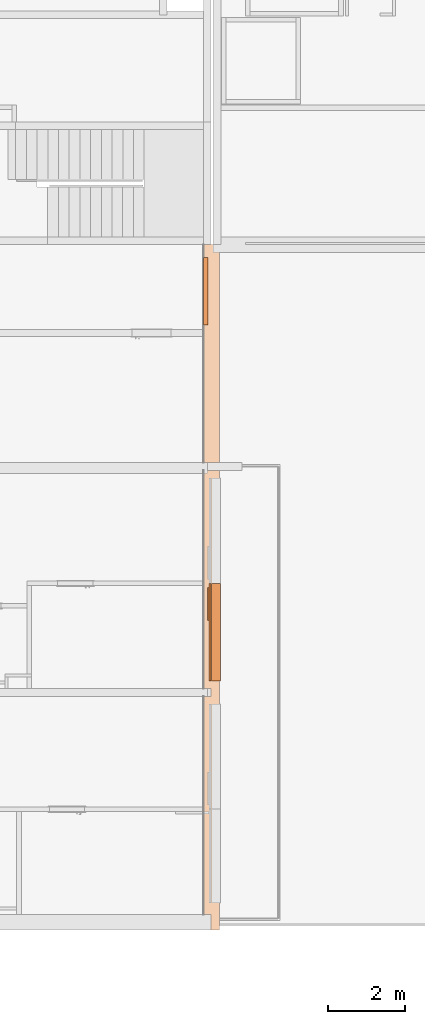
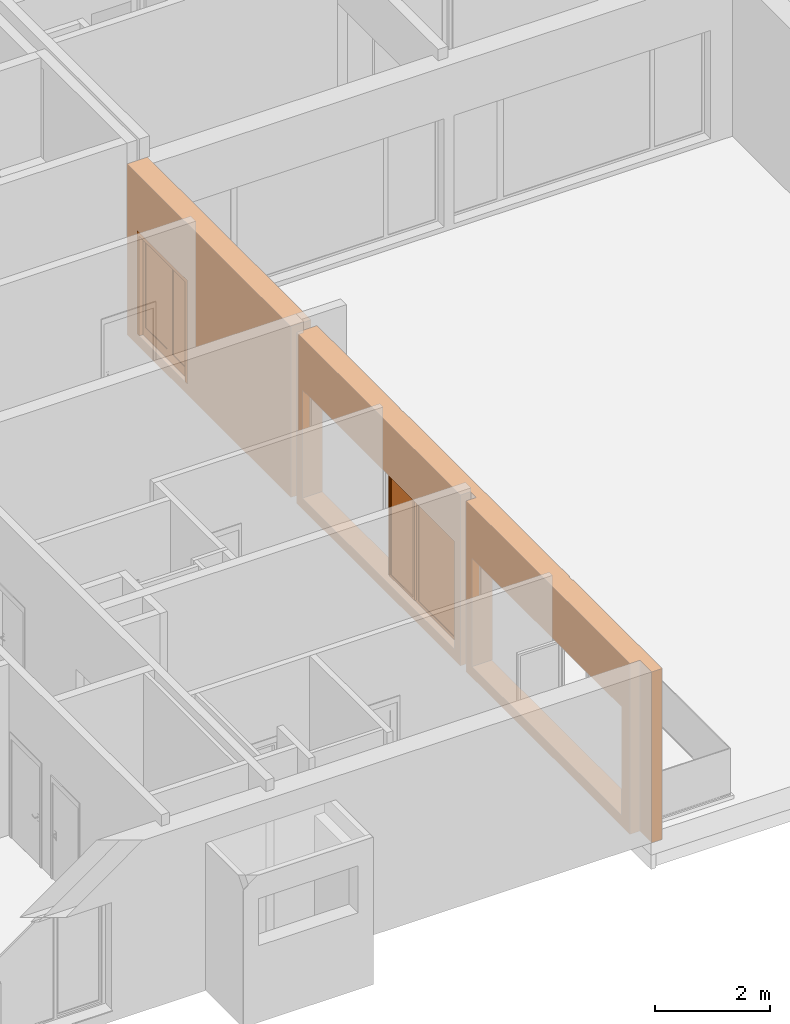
# One storey, part 30 of 46: 2 proxies, 5 openings, plus 1 element that does not belong to this part.
"""IFC2X3 building model written with IfcOpenShell, lengths in millimetres."""

import ifcopenshell
import ifcopenshell.guid

model = None  # the IFC model being written
_history = None  # IfcOwnerHistory: only IFC2X3 demands one
_inside = {}  # id of a spatial element -> (the spatial element, [elements in it])
_under = {}  # id of a project, library or spatial element -> (it, [spatial elements below it])
_declared = {}  # id of a project -> (the project, [libraries it declares])
_typed = {}  # id of a type object -> (the type object, [elements of that type])
_made_of = {}  # id of a material, layer set ... -> (it, [elements and type objects made of it])


def new_model(schema):
    """Start an empty IFC model of exactly this schema.

    Asked for "IFC4X3", IfcOpenShell would pick the latest addendum, in which some entities
    have other attributes; the version numbers below select the first issue.
    IFC2X3 requires an IfcOwnerHistory on every rooted entity: one is made here for all.
    """
    global model, _history
    if schema == "IFC4X3":
        model = ifcopenshell.file(schema_version=(4, 3, 0, 0))
    else:
        model = ifcopenshell.file(schema=schema)
    _inside.clear()
    _under.clear()
    _declared.clear()
    _typed.clear()
    _made_of.clear()
    _history = None
    if model.schema == "IFC2X3":
        org = make("IfcOrganization", Name="unknown")
        user = make(
            "IfcPersonAndOrganization",
            ThePerson=make("IfcPerson", FamilyName="unknown"),
            TheOrganization=org,
        )
        app = make(
            "IfcApplication",
            ApplicationDeveloper=org,
            Version="unknown",
            ApplicationFullName="unknown",
            ApplicationIdentifier="unknown",
        )
        _history = make(
            "IfcOwnerHistory",
            OwningUser=user,
            OwningApplication=app,
            ChangeAction="ADDED",
            CreationDate=0,
        )
    return model


def make(cls, **values):
    """One entity of the class cls with the attributes given. An attribute that is None is left unset."""
    return model.create_entity(
        cls, **{name: value for name, value in values.items() if value is not None}
    )


def entity(cls, *values):
    """Any entity or typed value of the class cls, its attributes in the order of the schema. None: left unset."""
    e = model.create_entity(cls)
    for i, value in enumerate(values):
        if value is not None:
            e[i] = value
    return e


def rooted(cls, **values):
    """An entity with a GlobalId (a new one), such as an element, a storey or a relation."""
    return make(cls, GlobalId=ifcopenshell.guid.new(), OwnerHistory=_history, **values)


def si_unit(unit_type, name, prefix=None):
    """IfcSIUnit, for example si_unit("LENGTHUNIT", "METRE", prefix="MILLI")."""
    return make("IfcSIUnit", UnitType=unit_type, Prefix=prefix, Name=name)


def converted_unit(unit_type, name, factor, base, dimensions=None, offset=None):
    """IfcConversionBasedUnit, such as the inch: factor (a typed value) times the base unit."""
    return make(
        "IfcConversionBasedUnit"
        if offset is None
        else "IfcConversionBasedUnitWithOffset",
        ConversionOffset=offset,
        Dimensions=None
        if dimensions is None
        else entity("IfcDimensionalExponents", *dimensions),
        UnitType=unit_type,
        Name=name,
        ConversionFactor=make(
            "IfcMeasureWithUnit", ValueComponent=factor, UnitComponent=base
        ),
    )


def derived_unit(unit_type, elements):
    """IfcDerivedUnit: a product of units, each with its exponent."""
    return make(
        "IfcDerivedUnit",
        Elements=[
            make("IfcDerivedUnitElement", Unit=unit, Exponent=power)
            for unit, power in elements
        ],
        UnitType=unit_type,
    )


def money_unit(currency):
    """IfcMonetaryUnit."""
    return make("IfcMonetaryUnit", Currency=currency)


def assignment(units):
    """IfcUnitAssignment: the units of a project."""
    return None if units is None else make("IfcUnitAssignment", Units=units)


def point(xyz):
    """IfcCartesianPoint."""
    return None if xyz is None else make("IfcCartesianPoint", Coordinates=xyz)


def direction(xyz):
    """IfcDirection."""
    return None if xyz is None else make("IfcDirection", DirectionRatios=xyz)


def frame(location, z_axis=None, x_axis=None):
    """IfcAxis2Placement3D, a coordinate frame: its origin and axes. An axis left out is left unset."""
    return make(
        "IfcAxis2Placement3D",
        Location=point(location),
        Axis=direction(z_axis),
        RefDirection=direction(x_axis),
    )


def frame_2d(location, x_axis=None):
    """IfcAxis2Placement2D, a coordinate frame in the plane: its origin and x axis."""
    return make(
        "IfcAxis2Placement2D", Location=point(location), RefDirection=direction(x_axis)
    )


def origin_with_axes():
    """The frame at (0, 0, 0) with the z axis (0, 0, 1) and the x axis (1, 0, 0) written out."""
    return frame((0.0, 0.0, 0.0), z_axis=(0.0, 0.0, 1.0), x_axis=(1.0, 0.0, 0.0))


def origin_2d_with_axis():
    """The frame at (0, 0) in the plane with the x axis (1, 0) written out."""
    return frame_2d((0.0, 0.0), x_axis=(1.0, 0.0))


def place(relative_to, where):
    """IfcLocalPlacement: puts the frame where relative to a parent placement (None: the world)."""
    return make(
        "IfcLocalPlacement", PlacementRelTo=relative_to, RelativePlacement=where
    )


def context(
    kind, dimensions, precision=None, world=None, true_north=None, identifier=None
):
    """IfcGeometricRepresentationContext, for example the 3D "Model" context."""
    return make(
        "IfcGeometricRepresentationContext",
        ContextIdentifier=identifier,
        ContextType=kind,
        CoordinateSpaceDimension=dimensions,
        Precision=precision,
        WorldCoordinateSystem=world,
        TrueNorth=true_north,
    )


def subcontext(parent, identifier, kind, view, scale=None):
    """IfcGeometricRepresentationSubContext, for example "Body" below "Model"."""
    return make(
        "IfcGeometricRepresentationSubContext",
        ContextIdentifier=identifier,
        ContextType=kind,
        ParentContext=parent,
        TargetScale=scale,
        TargetView=view,
    )


def project(units=None, contexts=None):
    """IfcProject with its units and contexts."""
    return rooted(
        "IfcProject",
        Name="project",
        RepresentationContexts=contexts,
        UnitsInContext=assignment(units),
    )


def spatial(cls, under=None, at=None, **own):
    """A site, building, storey or space (cls), placed at a placement, below another one or the project."""
    s = rooted(cls, ObjectPlacement=at, **own)
    if under is not None:
        _under.setdefault(under.id(), (under, []))[1].append(s)
    return s


def profile(cls, at=None, kind="AREA", **sizes):
    """A parametric profile (cls). Its sizes go by their IFC names, for example OverallWidth=200.0."""
    return make(cls, ProfileType=kind, Position=at, **sizes)


def rectangle(**sizes):
    """IfcRectangleProfileDef."""
    return profile("IfcRectangleProfileDef", **sizes)


def extrude(swept, where, along, depth):
    """IfcExtrudedAreaSolid: the profile swept, set in the frame where, extruded along a direction by depth."""
    return make(
        "IfcExtrudedAreaSolid",
        SweptArea=swept,
        Position=where,
        ExtrudedDirection=direction(along),
        Depth=depth,
    )


def faces_of(points, faces, orient=None, outer=None):
    """IfcFace entities. A face is a list of loops; a loop is a list of indices into points, from 0.

    orient and outer hold one flag for each loop. By default every Orientation is true, the
    first loop of a face is its IfcFaceOuterBound and the others are IfcFaceBound.
    """
    made = []
    for i, loops in enumerate(faces):
        bounds = []
        for j, loop in enumerate(loops):
            is_outer = j == 0 if outer is None else outer[i][j]
            bounds.append(
                make(
                    "IfcFaceOuterBound" if is_outer else "IfcFaceBound",
                    Bound=make("IfcPolyLoop", Polygon=[points[k] for k in loop]),
                    Orientation=True if orient is None else orient[i][j],
                )
            )
        made.append(make("IfcFace", Bounds=bounds))
    return made


def open_shell(faces, orient=None, outer=None):
    """The faces of one IfcOpenShell. surface_model builds it on its shared points."""
    return ("IfcOpenShell", faces, orient, outer)


def faceted_brep(points, faces, orient=None, outer=None, voids=None):
    """IfcFacetedBrep: a solid bounded by flat faces; with voids (closed shells), ...WithVoids."""
    shared = [point(p) for p in points]
    hull = make("IfcClosedShell", CfsFaces=faces_of(shared, faces, orient, outer))
    if voids is None:
        return make("IfcFacetedBrep", Outer=hull)
    return make(
        "IfcFacetedBrepWithVoids",
        Outer=hull,
        Voids=[
            make(cls, CfsFaces=faces_of(shared, fs, o, b)) for cls, fs, o, b in voids
        ],
    )


def surface_model(cls, points, shells):
    """IfcFaceBasedSurfaceModel or IfcShellBasedSurfaceModel (cls): surfaces that need not close."""
    shared = [point(p) for p in points]
    made = [make(c, CfsFaces=faces_of(shared, fs, o, b)) for c, fs, o, b in shells]
    if cls == "IfcFaceBasedSurfaceModel":
        return make(cls, FbsmFaces=made)
    return make(cls, SbsmBoundary=made)


def shape(context_of_items, identifier, shape_type, items):
    """IfcShapeRepresentation: the items that make up one representation, for example the "Body"."""
    return make(
        "IfcShapeRepresentation",
        ContextOfItems=context_of_items,
        RepresentationIdentifier=identifier,
        RepresentationType=shape_type,
        Items=items,
    )


def material(Name=None, Category=None):
    """IfcMaterial."""
    return make("IfcMaterial", Name=Name, Category=Category)


def material_list(materials):
    """IfcMaterialList."""
    return make("IfcMaterialList", Materials=materials)


def made_of(thing, what):
    """Note that an element or type object is made of a material, layer set ...; save() writes the relation."""
    if what is not None:
        _made_of.setdefault(what.id(), (what, []))[1].append(thing)
    return thing


def type_object(cls, material=None, **own):
    """A type object (cls), such as IfcWallType, which elements share."""
    return made_of(rooted(cls, **own), material)


def element(
    cls,
    number,
    at=None,
    inside=None,
    cuts=None,
    type_object=None,
    material=None,
    context=None,
    identifier="Body",
    shape_type=None,
    held_by="IfcProductDefinitionShape",
    body=None,
    shapes=None,
    **own,
):
    """One element of the class cls, such as IfcWall. Its Tag is "e" and its number.

    at: its placement. inside: the storey or other place that contains it. cuts: it is an
    opening in that element (IfcRelVoidsElement). A single representation is given by context,
    identifier, shape_type and body (its items); several are given by shapes. held_by: the class
    of the entity that holds the representations. save() writes the other relations.
    """
    e = rooted(cls, Tag="e%d" % number, ObjectPlacement=at, **own)
    if body is not None:
        shapes = [shape(context, identifier, shape_type, body)]
    if shapes is not None:
        e.Representation = make(held_by, Representations=shapes)
    if inside is not None:
        _inside.setdefault(inside.id(), (inside, []))[1].append(e)
    if cuts is not None:
        rooted(
            "IfcRelVoidsElement", RelatingBuildingElement=cuts, RelatedOpeningElement=e
        )
    if type_object is not None:
        _typed.setdefault(type_object.id(), (type_object, []))[1].append(e)
    return made_of(e, material)


def fill(opening, filler):
    """IfcRelFillsElement: the door or window that sits in an opening."""
    return rooted(
        "IfcRelFillsElement",
        RelatingOpeningElement=opening,
        RelatedBuildingElement=filler,
    )


def aggregate(whole, parts):
    """IfcRelAggregates: a whole, such as a stair, and the parts it consists of."""
    return rooted("IfcRelAggregates", RelatingObject=whole, RelatedObjects=parts)


def save(model, path):
    """Write the relations noted so far, then the file.

    IfcRelAggregates (storeys below a building ...), IfcRelContainedInSpatialStructure (elements
    in a storey), IfcRelDefinesByType, IfcRelAssociatesMaterial and IfcRelDeclares: one each for
    every whole, place, type object, material and project.
    """
    for whole, parts in _under.values():
        aggregate(whole, parts)
    for where, things in _inside.values():
        rooted(
            "IfcRelContainedInSpatialStructure",
            RelatedElements=things,
            RelatingStructure=where,
        )
    for kind, things in _typed.values():
        rooted("IfcRelDefinesByType", RelatedObjects=things, RelatingType=kind)
    for what, things in _made_of.values():
        rooted("IfcRelAssociatesMaterial", RelatedObjects=things, RelatingMaterial=what)
    for by, libraries in _declared.values():
        rooted("IfcRelDeclares", RelatingContext=by, RelatedDefinitions=libraries)
    model.write(path)


model = new_model("IFC2X3")

# Units and contexts
model_context = context("Model", 3, precision=0.01, world=origin_with_axes(), true_north=direction((0.34421633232, 0.938890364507)))
body_context = subcontext(model_context, "Body", "Model", "MODEL_VIEW")
ifc_project = project(units=[si_unit("LENGTHUNIT", "METRE", prefix="MILLI"), si_unit("AREAUNIT", "SQUARE_METRE"), si_unit("VOLUMEUNIT", "CUBIC_METRE"), converted_unit("PLANEANGLEUNIT", "DEGREE", entity("IfcPlaneAngleMeasure", 0.0174532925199), si_unit("PLANEANGLEUNIT", "RADIAN"), dimensions=[0, 0, 0, 0, 0, 0, 0]), si_unit("SOLIDANGLEUNIT", "STERADIAN"), money_unit("USD"), converted_unit("TIMEUNIT", "Year", entity("IfcTimeMeasure", 31556926.0), si_unit("TIMEUNIT", "SECOND"), dimensions=[0, 0, 1, 0, 0, 0, 0]), si_unit("MASSUNIT", "GRAM", prefix="KILO"), si_unit("THERMODYNAMICTEMPERATUREUNIT", "DEGREE_CELSIUS"), si_unit("LUMINOUSINTENSITYUNIT", "LUMEN"), si_unit("ENERGYUNIT", "JOULE", prefix="MEGA"), derived_unit("THERMALCONDUCTANCEUNIT", [(si_unit("POWERUNIT", "WATT"), 1), (si_unit("LENGTHUNIT", "METRE"), -1), (si_unit("THERMODYNAMICTEMPERATUREUNIT", "KELVIN"), -1)]), derived_unit("SPECIFICHEATCAPACITYUNIT", [(si_unit("ENERGYUNIT", "JOULE"), 1), (si_unit("MASSUNIT", "GRAM", prefix="KILO"), -1), (si_unit("THERMODYNAMICTEMPERATUREUNIT", "KELVIN"), -1)]), derived_unit("MASSDENSITYUNIT", [(si_unit("MASSUNIT", "GRAM", prefix="KILO"), 1), (si_unit("VOLUMEUNIT", "CUBIC_METRE"), -1)])], contexts=[model_context])

# Site, building, storey
site_placement = place(None, origin_with_axes())
site = spatial("IfcSite", under=ifc_project, at=site_placement, Name="USTRONIE MORSKIE", CompositionType="ELEMENT")
building_placement = place(site_placement, origin_with_axes())
building = spatial("IfcBuilding", under=site, at=building_placement, Name="Budynek", CompositionType="ELEMENT")
storey_placement = place(building_placement, origin_with_axes())
storey = spatial("IfcBuildingStorey", under=building, at=storey_placement, Name="PARTER", CompositionType="ELEMENT", Elevation=0.0)

# Proxies, openings
ifc_material_1 = material(Name="Tynk zewnętrzny")
ifc_material_2 = material(Name="Wełna ELEW wysoki priorytet")
ifc_material_3 = material(Name="Beton konstrukcyjny B25")
ifc_material_list = material_list([ifc_material_1, ifc_material_2, ifc_material_3])
building_element_proxy_type_1 = type_object("IfcBuildingElementProxyType", Name="20+20 HP 410", PredefinedType="NOTDEFINED")
proxy_1_placement = place(storey_placement, frame((367067.920919, 726801.198942, -230.0), z_axis=(0.0, 0.0, 1.0), x_axis=(0.0, -1.0, 0.0)))
proxy_1 = element("IfcBuildingElementProxy", 1, at=proxy_1_placement, inside=storey, type_object=building_element_proxy_type_1, material=ifc_material_list, Name="SZ-01", context=body_context, shape_type="Brep", body=[
    faceted_brep([(5699.99990542, 310.0, 130.0), (-9.4584947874e-05, 310.0, 130.0), (0.0, 310.0, 3630.0), (5699.99990542, 310.0, 3630.0), (-9.4584947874e-05, 300.0, 130.0), (5699.99990542, 300.0, 130.0), (0.0, 300.0, 3630.0), (5699.99990542, 300.0, 3630.0)], [[[0, 1, 2, 3]], [[4, 1, 0, 5]], [[1, 4, 6, 2]], [[7, 3, 2, 6]], [[5, 0, 3, 7]], [[4, 5, 7, 6]]]),
    faceted_brep([(8789.98055504, 310.0, 130.0), (5899.99990542, 310.0, 130.0), (5899.99990542, 310.0, 150.0), (8789.98055504, 310.0, 150.0), (5899.99990542, 300.0, 130.0), (8789.98055504, 300.0, 130.0), (5899.99990542, 300.0, 150.0), (8789.98055504, 300.0, 150.0)], [[[0, 1, 2, 3]], [[4, 1, 0, 5]], [[1, 4, 6, 2]], [[3, 2, 6, 7]], [[5, 0, 3, 7]], [[4, 5, 7, 6]]]),
    faceted_brep([(14689.980539, 310.0, 130.0), (8909.98055504, 310.0, 130.0), (8909.98055504, 310.0, 150.0), (14689.980539, 310.0, 150.0), (8909.98055504, 300.0, 130.0), (14689.980539, 300.0, 130.0), (8909.98055504, 300.0, 150.0), (14689.980539, 300.0, 150.0)], [[[0, 1, 2, 3]], [[4, 1, 0, 5]], [[1, 4, 6, 2]], [[3, 2, 6, 7]], [[5, 0, 3, 7]], [[4, 5, 7, 6]]]),
    faceted_brep([(17799.9999054, 310.0, 70.0), (17799.9999054, 310.0, 130.0), (14809.980539, 310.0, 130.0), (14809.980539, 310.0, 150.0), (17649.9999054, 310.0, 150.0), (17649.9999054, 310.0, 230.0), (14809.980539, 310.0, 230.0), (14809.980539, 310.0, 3630.0), (17909.9999054, 310.0, 3630.0), (17909.9999054, 310.0, 0.0), (17799.9999054, 310.0, 0.0), (17799.9999054, 310.0, 5.0), (17799.9999054, 300.0, 70.0), (17799.9999054, 300.0, 130.0), (14809.980539, 300.0, 130.0), (14809.980539, 300.0, 150.0), (17649.9999054, 300.0, 150.0), (17649.9999054, 300.0, 230.0), (14809.980539, 300.0, 230.0), (14809.980539, 300.0, 3630.0), (17909.9999054, 300.0, 3630.0), (17909.9999054, 300.0, 0.0), (17799.9999054, 300.0, 0.0), (17799.9999054, 300.0, 5.0)], [[[0, 1, 2, 3, 4, 5, 6, 7, 8, 9, 10, 11]], [[1, 0, 12, 13]], [[14, 2, 1, 13]], [[2, 14, 15, 3]], [[4, 3, 15, 16]], [[5, 4, 16, 17]], [[18, 6, 5, 17]], [[6, 18, 19, 7]], [[20, 8, 7, 19]], [[8, 20, 21, 9]], [[22, 10, 9, 21]], [[23, 11, 10, 22]], [[12, 0, 11, 23]], [[13, 12, 23, 22, 21, 20, 19, 18, 17, 16, 15, 14]]]),
    faceted_brep([(8789.98055504, 310.0, 230.0), (5899.99990542, 310.0, 230.0), (5899.99990542, 310.0, 3630.0), (8789.98055504, 310.0, 3630.0), (5899.99990542, 300.0, 230.0), (8789.98055504, 300.0, 230.0), (5899.99990542, 300.0, 3630.0), (8789.98055504, 300.0, 3630.0)], [[[0, 1, 2, 3]], [[4, 1, 0, 5]], [[1, 4, 6, 2]], [[7, 3, 2, 6]], [[5, 0, 3, 7]], [[4, 5, 7, 6]]]),
    faceted_brep([(14689.980539, 310.0, 230.0), (8909.98055504, 310.0, 230.0), (8909.98055504, 310.0, 3630.0), (14689.980539, 310.0, 3630.0), (8909.98055504, 300.0, 230.0), (14689.980539, 300.0, 230.0), (8909.98055504, 300.0, 3630.0), (14689.980539, 300.0, 3630.0)], [[[0, 1, 2, 3]], [[4, 1, 0, 5]], [[1, 4, 6, 2]], [[7, 3, 2, 6]], [[5, 0, 3, 7]], [[4, 5, 7, 6]]]),
    faceted_brep([(5699.99990542, 300.0, 3630.0), (0.0, 300.0, 3630.0), (0.0, 100.0, 3630.0), (5699.99990542, 100.0, 3630.0), (5699.99990542, 300.0, 0.0), (0.0, 300.0, 0.0), (0.0, 100.0, 0.0), (5699.99990542, 100.0, 0.0)], [[[0, 1, 2, 3]], [[4, 5, 1, 0]], [[2, 1, 5, 6]], [[3, 2, 6, 7]], [[3, 7, 4, 0]], [[7, 6, 5, 4]]]),
    faceted_brep([(17909.9999054, 300.0, 3630.0), (5899.99990542, 300.0, 3630.0), (5899.99990542, 100.0, 3630.0), (17909.9999054, 100.0, 3630.0), (17909.9999054, 300.0, 0.0), (5899.99990542, 300.0, 0.0), (5899.99990542, 100.0, 0.0), (17909.9999054, 100.0, 0.0)], [[[0, 1, 2, 3]], [[4, 5, 1, 0]], [[2, 1, 5, 6]], [[3, 2, 6, 7]], [[3, 7, 4, 0]], [[7, 6, 5, 4]]]),
    faceted_brep([(5699.97755223, 100.0, 3630.0), (0.0, 100.0, 3630.0), (0.0, -100.0, 3630.0), (5699.97801766, -100.0, 3630.0), (5699.97755223, 100.0, 0.0), (0.0, 100.0, 0.0), (0.0, -100.0, 0.0), (5699.97801766, -100.0, 0.0)], [[[0, 1, 2, 3]], [[4, 5, 1, 0]], [[2, 1, 5, 6]], [[3, 2, 6, 7]], [[3, 7, 4, 0]], [[7, 6, 5, 4]]]),
    faceted_brep([(17499.9999054, 100.0, 3630.0), (11799.9999054, 100.0, 3630.0), (11799.9999054, -100.0, 3630.0), (17499.9999054, -100.0, 3630.0), (17499.9999054, 100.0, 0.0), (11799.9999054, 100.0, 0.0), (11799.9999054, -100.0, 0.0), (17499.9999054, -100.0, 0.0)], [[[0, 1, 2, 3]], [[4, 5, 1, 0]], [[2, 1, 5, 6]], [[3, 2, 6, 7]], [[3, 7, 4, 0]], [[7, 6, 5, 4]]]),
    faceted_brep([(11599.9999054, 100.0, 3630.0), (5899.97755223, 100.0, 3630.0), (5899.97801766, -100.0, 3630.0), (11599.9999054, -100.0, 3630.0), (11599.9999054, 100.0, 0.0), (5899.97755223, 100.0, 0.0), (5899.97801766, -100.0, 0.0), (11599.9999054, -100.0, 0.0)], [[[0, 1, 2, 3]], [[4, 5, 1, 0]], [[2, 1, 5, 6]], [[3, 2, 6, 7]], [[3, 7, 4, 0]], [[7, 6, 5, 4]]]),
])
opening_1_placement = place(proxy_1_placement, frame((13374.9868435, 0.0, 230.0), z_axis=(0.0, 0.0, 1.0), x_axis=(1.0, 0.0, 0.0)))
element("IfcOpeningElement", 2, at=opening_1_placement, cuts=proxy_1, Name="Wz.05", context=body_context, shape_type="SweptSolid", body=[
    extrude(rectangle(XDim=2749.98566828, YDim=2300.0, at=origin_2d_with_axis()), frame((0.0, 100.0, 1150.0), z_axis=(0.0, 1.0, 0.0), x_axis=(1.0, 0.0, 0.0)), (0.0, 0.0, 1.0), 620.0),
    extrude(rectangle(XDim=2749.98566828, YDim=2300.0, at=origin_2d_with_axis()), frame((0.0, 100.0, 1150.0), z_axis=(0.0, -1.0, 0.0), x_axis=(1.0, 0.0, 0.0)), (0.0, 0.0, 1.0), 610.0),
])
opening_2_placement = place(proxy_1_placement, frame((15974.9918314, 0.0, 230.0), z_axis=(0.0, 0.0, 1.0), x_axis=(1.0, 0.0, 0.0)))
element("IfcOpeningElement", 3, at=opening_2_placement, cuts=proxy_1, Name="Wz.05", context=body_context, shape_type="SweptSolid", body=[
    extrude(rectangle(XDim=2450.02430751, YDim=2300.0, at=origin_2d_with_axis()), frame((0.0, 100.0, 1150.0), z_axis=(0.0, -1.0, 0.0), x_axis=(-1.0, 0.0, 0.0)), (0.0, 0.0, -1.0), 620.0),
    extrude(rectangle(XDim=2450.02430751, YDim=2300.0, at=origin_2d_with_axis()), frame((0.0, 100.0, 1150.0), z_axis=(0.0, 1.0, 0.0), x_axis=(-1.0, 0.0, 0.0)), (0.0, 0.0, -1.0), 610.0),
])
opening_3_placement = place(proxy_1_placement, frame((7475.00891863, 0.0, 230.0), z_axis=(0.0, 0.0, 1.0), x_axis=(1.0, 0.0, 0.0)))
element("IfcOpeningElement", 4, at=opening_3_placement, cuts=proxy_1, Name="Wz.05", context=body_context, shape_type="SweptSolid", body=[
    extrude(rectangle(XDim=2749.94323081, YDim=2300.0, at=origin_2d_with_axis()), frame((0.0, 100.0, 1150.0), z_axis=(0.0, 1.0, 0.0), x_axis=(1.0, 0.0, 0.0)), (0.0, 0.0, 1.0), 620.0),
    extrude(rectangle(XDim=2749.94323081, YDim=2300.0, at=origin_2d_with_axis()), frame((0.0, 100.0, 1150.0), z_axis=(0.0, -1.0, 0.0), x_axis=(1.0, 0.0, 0.0)), (0.0, 0.0, 1.0), 610.0),
])
opening_4_placement = place(proxy_1_placement, frame((10124.9923386, 0.0, 230.0), z_axis=(0.0, 0.0, 1.0), x_axis=(1.0, 0.0, 0.0)))
opening_4 = element("IfcOpeningElement", 5, at=opening_4_placement, cuts=proxy_1, Name="Wz.05", context=body_context, shape_type="SweptSolid", body=[
    extrude(rectangle(XDim=2550.02360912, YDim=2300.0, at=origin_2d_with_axis()), frame((0.0, 100.0, 1150.0), z_axis=(0.0, -1.0, 0.0), x_axis=(-1.0, 0.0, 0.0)), (0.0, 0.0, -1.0), 620.0),
    extrude(rectangle(XDim=2550.02360912, YDim=2300.0, at=origin_2d_with_axis()), frame((0.0, 100.0, 1150.0), z_axis=(0.0, 1.0, 0.0), x_axis=(-1.0, 0.0, 0.0)), (0.0, 0.0, -1.0), 610.0),
])
opening_5_placement = place(proxy_1_placement, frame((1219.99990542, 0.0, 230.0), z_axis=(0.0, 0.0, 1.0), x_axis=(1.0, 0.0, 0.0)))
opening_5 = element("IfcOpeningElement", 6, at=opening_5_placement, cuts=proxy_1, Name="D5", context=body_context, shape_type="SweptSolid", body=[
    extrude(rectangle(XDim=1760.0, YDim=2200.0, at=origin_2d_with_axis()), frame((0.0, 410.0, 1100.0), z_axis=(0.0, 1.0, 0.0), x_axis=(-1.0, 0.0, 0.0)), (0.0, 0.0, -1.0), 1230.0),
])
building_element_proxy_type_2 = type_object("IfcBuildingElementProxyType", Name="Drzwi podwójne 23", PredefinedType="NOTDEFINED")
proxy_2_placement = place(opening_5_placement, frame((-800.0, 0.0, 0.0), z_axis=(0.0, 0.0, 1.0), x_axis=(1.0, 0.0, 0.0)))
proxy_2 = element("IfcBuildingElementProxy", 7, at=proxy_2_placement, inside=storey, type_object=building_element_proxy_type_2, Name="D5", context=body_context, shape_type="SurfaceModel", body=[
    faceted_brep([(1600.0, -25.0, 0.0), (1600.0, -100.0, 0.0), (1600.0, -100.0, 2120.0), (1600.0, -25.0, 2120.0), (1612.0, -25.0, 0.0), (1612.0, 15.0, 0.0), (1680.0, 15.0, 0.0), (1680.0, -100.0, 0.0), (1680.0, -100.0, 2120.0), (1612.0, -25.0, 2120.0), (1680.0, 15.0, 2120.0), (1612.0, 15.0, 2120.0)], [[[0, 1, 2, 3]], [[4, 5, 6, 7, 1, 0]], [[1, 7, 8, 2]], [[9, 3, 2, 8, 10, 11]], [[9, 4, 0, 3]], [[11, 5, 4, 9]], [[11, 10, 6, 5]], [[6, 10, 8, 7]]]),
    faceted_brep([(-12.0000000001, -25.0, 2120.0), (-12.0000000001, 15.0, 2120.0), (-80.0, 15.0, 2120.0), (-80.0, -100.0, 2120.0), (0.0, -100.0, 2120.0), (0.0, -25.0, 2120.0), (-12.0000000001, -25.0, 0.0), (-12.0000000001, 15.0, 0.0), (-80.0, 15.0, 0.0), (-80.0, -100.0, 0.0), (0.0, -100.0, 0.0), (0.0, -25.0, 0.0)], [[[0, 1, 2, 3, 4, 5]], [[0, 6, 7, 1]], [[7, 8, 2, 1]], [[2, 8, 9, 3]], [[3, 9, 10, 4]], [[5, 4, 10, 11]], [[5, 11, 6, 0]], [[6, 11, 10, 9, 8, 7]]]),
    faceted_brep([(1612.0, 15.0, 2132.0), (-12.0000000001, 15.0, 2132.0), (-12.0000000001, 15.0, 2120.0), (-80.0, 15.0, 2120.0), (-80.0, 15.0, 2200.0), (1680.0, 15.0, 2200.0), (1680.0, 15.0, 2120.0), (1612.0, 15.0, 2120.0), (1612.0, -25.0, 2132.0), (-12.0000000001, -25.0, 2132.0), (-12.0000000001, -25.0, 2120.0), (0.0, -25.0, 2120.0), (0.0, -100.0, 2120.0), (-80.0, -100.0, 2120.0), (-80.0, -100.0, 2200.0), (1680.0, -100.0, 2200.0), (1680.0, -100.0, 2120.0), (1612.0, -25.0, 2120.0), (1600.0, -100.0, 2120.0), (1600.0, -25.0, 2120.0)], [[[0, 1, 2, 3, 4, 5, 6, 7]], [[0, 8, 9, 1]], [[1, 9, 10, 2]], [[10, 11, 12, 13, 3, 2]], [[4, 3, 13, 14]], [[5, 4, 14, 15]], [[6, 5, 15, 16]], [[17, 7, 6, 16, 18, 19]], [[7, 17, 8, 0]], [[10, 9, 8, 17, 19, 11]], [[19, 18, 12, 11]], [[12, 18, 16, 15, 14, 13]]]),
    faceted_brep([(-12.0000000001, 15.0, 200.0), (88.0, 15.0, 200.0), (88.0, -25.0, 200.0), (-12.0000000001, -25.0, 200.0), (-12.0000000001, 15.0, 2032.0), (88.0, 15.0, 2032.0), (88.0, -25.0, 2032.0), (-12.0000000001, -25.0, 2032.0)], [[[0, 1, 2, 3]], [[0, 4, 5, 1]], [[1, 5, 6, 2]], [[3, 2, 6, 7]], [[4, 0, 3, 7]], [[5, 4, 7, 6]]]),
    faceted_brep([(938.0, 15.0, 200.0), (938.0, 15.0, 2032.0), (938.0, -25.0, 2032.0), (938.0, -25.0, 200.0), (838.0, 15.0, 200.0), (838.0, 15.0, 2032.0), (838.0, -25.0, 2032.0), (838.0, -25.0, 200.0)], [[[0, 1, 2, 3]], [[0, 4, 5, 1]], [[1, 5, 6, 2]], [[3, 2, 6, 7]], [[4, 0, 3, 7]], [[5, 4, 7, 6]]]),
    faceted_brep([(-12.0000000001, 15.0, 0.0), (938.0, 15.0, 0.0), (938.0, -25.0, 0.0), (-12.0000000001, -25.0, 0.0), (-12.0000000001, 15.0, 200.0), (88.0, 15.0, 200.0), (838.0, 15.0, 200.0), (938.0, 15.0, 200.0), (938.0, -25.0, 200.0), (838.0, -25.0, 200.0), (88.0, -25.0, 200.0), (-12.0000000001, -25.0, 200.0)], [[[0, 1, 2, 3]], [[0, 4, 5, 6, 7, 1]], [[1, 7, 8, 2]], [[3, 2, 8, 9, 10, 11]], [[4, 0, 3, 11]], [[5, 4, 11, 10]], [[6, 5, 10, 9]], [[7, 6, 9, 8]]]),
    faceted_brep([(-12.0000000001, 15.0, 2132.0), (-12.0000000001, 15.0, 2032.0), (-12.0000000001, -25.0, 2032.0), (-12.0000000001, -25.0, 2132.0), (938.0, 15.0, 2132.0), (938.0, 15.0, 2032.0), (838.0, 15.0, 2032.0), (88.0, 15.0, 2032.0), (88.0, -25.0, 2032.0), (838.0, -25.0, 2032.0), (938.0, -25.0, 2032.0), (938.0, -25.0, 2132.0)], [[[0, 1, 2, 3]], [[0, 4, 5, 6, 7, 1]], [[1, 7, 8, 2]], [[3, 2, 8, 9, 10, 11]], [[4, 0, 3, 11]], [[5, 4, 11, 10]], [[6, 5, 10, 9]], [[7, 6, 9, 8]]]),
    surface_model("IfcShellBasedSurfaceModel", [(88.0, 0.999999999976, 200.0), (88.0, 0.999999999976, 2032.0), (838.0, 0.999999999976, 2032.0), (838.0, 0.999999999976, 200.0)], [open_shell([[[0, 1, 2, 3]]])]),
    surface_model("IfcShellBasedSurfaceModel", [(88.0, -11.0, 200.0), (838.0, -11.0, 200.0), (838.0, -11.0, 2032.0), (88.0, -11.0, 2032.0)], [open_shell([[[0, 1, 2, 3]]])]),
    faceted_brep([(1612.0, 15.0, 200.0), (1612.0, -25.0, 200.0), (1512.0, -25.0, 200.0), (1512.0, 15.0, 200.0), (1612.0, 15.0, 2032.0), (1612.0, -25.0, 2032.0), (1512.0, -25.0, 2032.0), (1512.0, 15.0, 2032.0)], [[[0, 1, 2, 3]], [[4, 5, 1, 0]], [[1, 5, 6, 2]], [[3, 2, 6, 7]], [[0, 3, 7, 4]], [[7, 6, 5, 4]]]),
    faceted_brep([(938.0, 15.0, 200.0), (938.0, -25.0, 200.0), (938.0, -25.0, 2032.0), (938.0, 15.0, 2032.0), (1038.0, 15.0, 200.0), (1038.0, -25.0, 200.0), (1038.0, -25.0, 2032.0), (1038.0, 15.0, 2032.0)], [[[0, 1, 2, 3]], [[4, 5, 1, 0]], [[1, 5, 6, 2]], [[3, 2, 6, 7]], [[0, 3, 7, 4]], [[7, 6, 5, 4]]]),
    faceted_brep([(1612.0, 15.0, 0.0), (1612.0, -25.0, 0.0), (938.0, -25.0, 0.0), (938.0, 15.0, 0.0), (1612.0, 15.0, 200.0), (1612.0, -25.0, 200.0), (1512.0, -25.0, 200.0), (1038.0, -25.0, 200.0), (938.0, -25.0, 200.0), (938.0, 15.0, 200.0), (1038.0, 15.0, 200.0), (1512.0, 15.0, 200.0)], [[[0, 1, 2, 3]], [[4, 5, 1, 0]], [[1, 5, 6, 7, 8, 2]], [[3, 2, 8, 9]], [[0, 3, 9, 10, 11, 4]], [[11, 6, 5, 4]], [[10, 7, 6, 11]], [[9, 8, 7, 10]]]),
    faceted_brep([(1612.0, 15.0, 2132.0), (1612.0, -25.0, 2132.0), (1612.0, -25.0, 2032.0), (1612.0, 15.0, 2032.0), (938.0, 15.0, 2132.0), (938.0, -25.0, 2132.0), (938.0, -25.0, 2032.0), (1038.0, -25.0, 2032.0), (1512.0, -25.0, 2032.0), (1512.0, 15.0, 2032.0), (1038.0, 15.0, 2032.0), (938.0, 15.0, 2032.0)], [[[0, 1, 2, 3]], [[4, 5, 1, 0]], [[1, 5, 6, 7, 8, 2]], [[3, 2, 8, 9]], [[0, 3, 9, 10, 11, 4]], [[11, 6, 5, 4]], [[10, 7, 6, 11]], [[9, 8, 7, 10]]]),
    surface_model("IfcShellBasedSurfaceModel", [(1512.0, 0.999999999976, 200.0), (1038.0, 0.999999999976, 200.0), (1038.0, 0.999999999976, 2032.0), (1512.0, 0.999999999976, 2032.0)], [open_shell([[[0, 1, 2, 3]]])]),
    surface_model("IfcShellBasedSurfaceModel", [(1512.0, -11.0, 200.0), (1512.0, -11.0, 2032.0), (1038.0, -11.0, 2032.0), (1038.0, -11.0, 200.0)], [open_shell([[[0, 1, 2, 3]]])]),
])
fill(opening_5, proxy_2)
building_element_proxy_type_3 = type_object("IfcBuildingElementProxyType", Name="Okno podwójne 23", PredefinedType="NOTDEFINED")
proxy_3_placement = place(opening_4_placement, frame((1275.01180456, 0.0, 0.0), z_axis=(0.0, 0.0, 1.0), x_axis=(-1.0, 0.0, 0.0)))
proxy_3 = element("IfcBuildingElementProxy", 8, at=proxy_3_placement, inside=storey, type_object=building_element_proxy_type_3, Name="Wz.05", context=body_context, shape_type="SurfaceModel", body=[
    surface_model("IfcShellBasedSurfaceModel", [(0.0, -101.0, 50.0), (0.0, -101.0, 40.0), (2550.02360912, -101.0, 40.0), (2550.02360912, -101.0, 50.0), (0.0, -340.0, 28.5714285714), (2550.02360912, -340.0, 28.5714285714), (0.0, -340.0, 8.57142857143), (2550.02360912, -340.0, 8.57142857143), (0.0, -330.0, 18.5714285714), (2550.02360912, -330.0, 18.5714285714)], [open_shell([[[0, 1, 2, 3]], [[1, 4, 5, 2]], [[4, 6, 7, 5]], [[6, 8, 9, 7]]])]),
    faceted_brep([(2425.02360912, -59.9999999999, 2235.0), (2425.02360912, -100.0, 2235.0), (2550.02360912, -100.0, 2235.0), (2550.02360912, -40.0, 2235.0), (2445.02360912, -40.0, 2235.0), (2445.02360912, -59.9999999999, 2235.0), (2425.02360912, -59.9999999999, 65.0), (2425.02360912, -100.0, 65.0), (2550.02360912, -100.0, 65.0), (2550.02360912, -40.0, 65.0), (2445.02360912, -40.0, 65.0), (2445.02360912, -59.9999999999, 65.0)], [[[0, 1, 2, 3, 4, 5]], [[6, 7, 1, 0]], [[8, 2, 1, 7]], [[9, 3, 2, 8]], [[4, 3, 9, 10]], [[10, 11, 5, 4]], [[5, 11, 6, 0]], [[11, 10, 9, 8, 7, 6]]]),
    faceted_brep([(1575.02360912, -40.0, 2235.0), (1495.02360912, -40.0, 2235.0), (1495.02360912, -100.0, 2235.0), (1595.02360912, -100.0, 2235.0), (1595.02360912, -59.9999999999, 2235.0), (1575.02360912, -59.9999999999, 2235.0), (1575.02360912, -40.0, 65.0), (1495.02360912, -40.0, 65.0), (1495.02360912, -100.0, 65.0), (1595.02360912, -100.0, 65.0), (1595.02360912, -59.9999999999, 65.0), (1575.02360912, -59.9999999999, 65.0)], [[[0, 1, 2, 3, 4, 5]], [[6, 7, 1, 0]], [[1, 7, 8, 2]], [[9, 3, 2, 8]], [[4, 3, 9, 10]], [[10, 11, 5, 4]], [[5, 11, 6, 0]], [[11, 10, 9, 8, 7, 6]]]),
    faceted_brep([(2425.02360912, -59.9999999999, 65.0), (2425.02360912, -100.0, 65.0), (2550.02360912, -100.0, 65.0), (2550.02360912, -40.0, 65.0), (2445.02360912, -40.0, 65.0), (2445.02360912, -59.9999999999, 65.0), (1595.02360912, -59.9999999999, 65.0), (1595.02360912, -100.0, 65.0), (0.0, -100.0, 65.0), (0.0, -100.0, 0.0), (2550.02360912, -100.0, 0.0), (1495.02360912, -100.0, 65.0), (65.0000000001, -100.0, 65.0), (2550.02360912, -40.0, 0.0), (1575.02360912, -40.0, 45.0), (2445.02360912, -40.0, 45.0), (0.0, -40.0, 0.0), (0.0, -40.0, 65.0), (65.0000000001, -40.0, 65.0), (1495.02360912, -40.0, 65.0), (1575.02360912, -40.0, 65.0), (2445.02360912, -59.9999999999, 45.0), (1575.02360912, -59.9999999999, 45.0), (1575.02360912, -59.9999999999, 65.0)], [[[0, 1, 2, 3, 4, 5]], [[6, 7, 1, 0]], [[8, 9, 10, 2, 1, 7, 11, 12]], [[13, 3, 2, 10]], [[14, 15, 4, 3, 13, 16, 17, 18, 19, 20]], [[15, 21, 5, 4]], [[5, 21, 22, 23, 6, 0]], [[23, 20, 19, 11, 7, 6]], [[17, 16, 9, 8]], [[16, 13, 10, 9]], [[19, 18, 12, 11]], [[18, 17, 8, 12]], [[14, 22, 21, 15]], [[23, 22, 14, 20]]]),
    faceted_brep([(1575.02360912, -40.0, 2235.0), (1495.02360912, -40.0, 2235.0), (65.0000000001, -40.0, 2235.0), (0.0, -40.0, 2235.0), (0.0, -40.0, 2300.0), (2550.02360912, -40.0, 2300.0), (2550.02360912, -40.0, 2235.0), (2445.02360912, -40.0, 2235.0), (2445.02360912, -40.0, 2255.0), (1575.02360912, -40.0, 2255.0), (1575.02360912, -59.9999999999, 2235.0), (1595.02360912, -59.9999999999, 2235.0), (1595.02360912, -100.0, 2235.0), (1495.02360912, -100.0, 2235.0), (65.0000000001, -100.0, 2235.0), (0.0, -100.0, 2235.0), (0.0, -100.0, 2300.0), (2550.02360912, -100.0, 2300.0), (2550.02360912, -100.0, 2235.0), (2445.02360912, -59.9999999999, 2235.0), (2425.02360912, -100.0, 2235.0), (2425.02360912, -59.9999999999, 2235.0), (2445.02360912, -59.9999999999, 2255.0), (1575.02360912, -59.9999999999, 2255.0)], [[[0, 1, 2, 3, 4, 5, 6, 7, 8, 9]], [[10, 11, 12, 13, 1, 0]], [[2, 1, 13, 14]], [[3, 2, 14, 15]], [[4, 3, 15, 16]], [[5, 4, 16, 17]], [[6, 5, 17, 18]], [[19, 7, 6, 18, 20, 21]], [[7, 19, 22, 8]], [[8, 22, 23, 9]], [[9, 23, 10, 0]], [[21, 11, 10, 23, 22, 19]], [[21, 20, 12, 11]], [[12, 20, 18, 17, 16, 15, 14, 13]]]),
    faceted_brep([(65.0000000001, -100.0, 2235.0), (65.0000000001, -40.0, 2235.0), (0.0, -40.0, 2235.0), (0.0, -100.0, 2235.0), (65.0000000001, -100.0, 65.0), (65.0000000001, -40.0, 65.0), (0.0, -40.0, 65.0), (0.0, -100.0, 65.0)], [[[0, 1, 2, 3]], [[4, 5, 1, 0]], [[1, 5, 6, 2]], [[3, 2, 6, 7]], [[0, 3, 7, 4]], [[7, 6, 5, 4]]]),
    surface_model("IfcShellBasedSurfaceModel", [(65.0000000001, -69.9999999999, 65.0), (1495.02360912, -69.9999999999, 65.0), (1495.02360912, -69.9999999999, 2235.0), (65.0000000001, -69.9999999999, 2235.0)], [open_shell([[[0, 1, 2, 3]]])]),
    surface_model("IfcShellBasedSurfaceModel", [(65.0000000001, -50.0, 65.0), (65.0000000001, -50.0, 2235.0), (1495.02360912, -50.0, 2235.0), (1495.02360912, -50.0, 65.0)], [open_shell([[[0, 1, 2, 3]]])]),
    faceted_brep([(1620.02360912, -59.9999999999, 2210.0), (1620.02360912, 0.0, 2210.0), (1575.02360912, 0.0, 2210.0), (1575.02360912, -59.9999999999, 2210.0), (1620.02360912, -59.9999999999, 90.0), (1620.02360912, 0.0, 90.0), (1575.02360912, 0.0, 90.0), (1575.02360912, -59.9999999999, 90.0)], [[[0, 1, 2, 3]], [[4, 5, 1, 0]], [[1, 5, 6, 2]], [[3, 2, 6, 7]], [[0, 3, 7, 4]], [[7, 6, 5, 4]]]),
    faceted_brep([(2400.02360912, -59.9999999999, 90.0), (2400.02360912, 0.0, 90.0), (2445.02360912, 0.0, 90.0), (2445.02360912, -59.9999999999, 90.0), (2400.02360912, -59.9999999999, 2210.0), (2400.02360912, 0.0, 2210.0), (2445.02360912, 0.0, 2210.0), (2445.02360912, -59.9999999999, 2210.0)], [[[0, 1, 2, 3]], [[4, 5, 1, 0]], [[1, 5, 6, 2]], [[3, 2, 6, 7]], [[0, 3, 7, 4]], [[7, 6, 5, 4]]]),
    faceted_brep([(2445.02360912, -59.9999999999, 45.0), (2445.02360912, 0.0, 45.0), (2445.02360912, 0.0, 90.0), (2445.02360912, -59.9999999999, 90.0), (1575.02360912, -59.9999999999, 45.0), (1575.02360912, 0.0, 45.0), (1575.02360912, 0.0, 90.0), (1620.02360912, 0.0, 90.0), (2400.02360912, 0.0, 90.0), (2400.02360912, -59.9999999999, 90.0), (1620.02360912, -59.9999999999, 90.0), (1575.02360912, -59.9999999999, 90.0)], [[[0, 1, 2, 3]], [[4, 5, 1, 0]], [[1, 5, 6, 7, 8, 2]], [[3, 2, 8, 9]], [[0, 3, 9, 10, 11, 4]], [[11, 6, 5, 4]], [[10, 7, 6, 11]], [[9, 8, 7, 10]]]),
    faceted_brep([(1575.02360912, -59.9999999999, 2255.0), (1575.02360912, 0.0, 2255.0), (1575.02360912, 0.0, 2210.0), (1575.02360912, -59.9999999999, 2210.0), (2445.02360912, -59.9999999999, 2255.0), (2445.02360912, 0.0, 2255.0), (2445.02360912, 0.0, 2210.0), (2400.02360912, 0.0, 2210.0), (1620.02360912, 0.0, 2210.0), (1620.02360912, -59.9999999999, 2210.0), (2400.02360912, -59.9999999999, 2210.0), (2445.02360912, -59.9999999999, 2210.0)], [[[0, 1, 2, 3]], [[4, 5, 1, 0]], [[1, 5, 6, 7, 8, 2]], [[3, 2, 8, 9]], [[0, 3, 9, 10, 11, 4]], [[11, 6, 5, 4]], [[10, 7, 6, 11]], [[9, 8, 7, 10]]]),
    surface_model("IfcShellBasedSurfaceModel", [(1620.02360912, -40.0, 90.0), (2400.02360912, -40.0, 90.0), (2400.02360912, -40.0, 2210.0), (1620.02360912, -40.0, 2210.0)], [open_shell([[[0, 1, 2, 3]]])]),
    surface_model("IfcShellBasedSurfaceModel", [(1620.02360912, -20.0, 90.0), (1620.02360912, -20.0, 2210.0), (2400.02360912, -20.0, 2210.0), (2400.02360912, -20.0, 90.0)], [open_shell([[[0, 1, 2, 3]]])]),
])
fill(opening_4, proxy_3)

save(model, "model.ifc")
